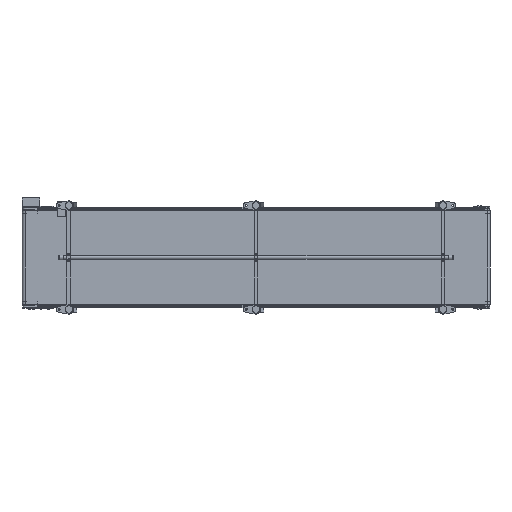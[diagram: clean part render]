
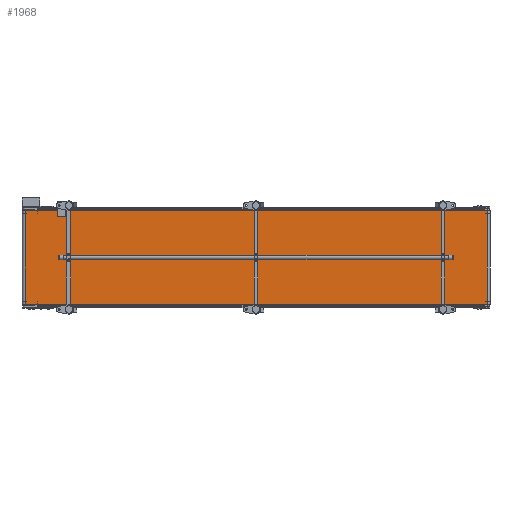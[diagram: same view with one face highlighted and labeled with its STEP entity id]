
A CAD part, front view. The second image highlights one B-rep face of the part: STEP entity #1968.
In plain terms, the highlighted planar face has unit normal (0.001, -1, 0).
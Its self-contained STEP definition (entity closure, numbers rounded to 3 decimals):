
#1968=ADVANCED_FACE('',(#4501),#4500,.F.);
#4500=PLANE('',#29564);
#4501=FACE_OUTER_BOUND('',#29565,.T.);
#29561=CARTESIAN_POINT('',(2993.025,-33.686,-310.));
#29562=DIRECTION('',(-0.001,1.,0.));
#29563=DIRECTION('',(-1.,-0.001,0.));
#29564=AXIS2_PLACEMENT_3D('',#29561,#29562,#29563);
#29565=EDGE_LOOP('',(#43220,#43221,#43222,#43223));
#43220=ORIENTED_EDGE('',*,*,#55582,.T.);
#43221=ORIENTED_EDGE('',*,*,#55583,.F.);
#43222=ORIENTED_EDGE('',*,*,#55575,.F.);
#43223=ORIENTED_EDGE('',*,*,#55581,.T.);
#55575=EDGE_CURVE('',#61888,#61881,#61895,.T.);
#55581=EDGE_CURVE('',#61888,#61929,#61936,.T.);
#55582=EDGE_CURVE('',#61929,#61942,#61943,.T.);
#55583=EDGE_CURVE('',#61881,#61942,#61949,.T.);
#61881=VERTEX_POINT('',#102924);
#61888=VERTEX_POINT('',#102929);
#61895=LINE('',#102934,#102935);
#61929=VERTEX_POINT('',#102955);
#61936=LINE('',#102960,#102961);
#61942=VERTEX_POINT('',#102963);
#61943=LINE('',#102964,#102965);
#61949=LINE('',#102967,#102968);
#102924=CARTESIAN_POINT('',(2983.025,-33.7,300.));
#102929=CARTESIAN_POINT('',(19.501,-37.7,300.));
#102934=CARTESIAN_POINT('',(19.501,-37.7,300.));
#102935=VECTOR('',#102936,2963.526);
#102936=DIRECTION('',(1.,0.001,0.));
#102955=CARTESIAN_POINT('',(19.501,-37.7,-300.));
#102960=CARTESIAN_POINT('',(19.501,-37.7,300.));
#102961=VECTOR('',#102962,600.);
#102962=DIRECTION('',(0.,0.,-1.));
#102963=CARTESIAN_POINT('',(2983.025,-33.7,-300.));
#102964=CARTESIAN_POINT('',(19.501,-37.7,-300.));
#102965=VECTOR('',#102966,2963.526);
#102966=DIRECTION('',(1.,0.001,0.));
#102967=CARTESIAN_POINT('',(2983.025,-33.7,300.));
#102968=VECTOR('',#102969,600.);
#102969=DIRECTION('',(0.,0.,-1.));
